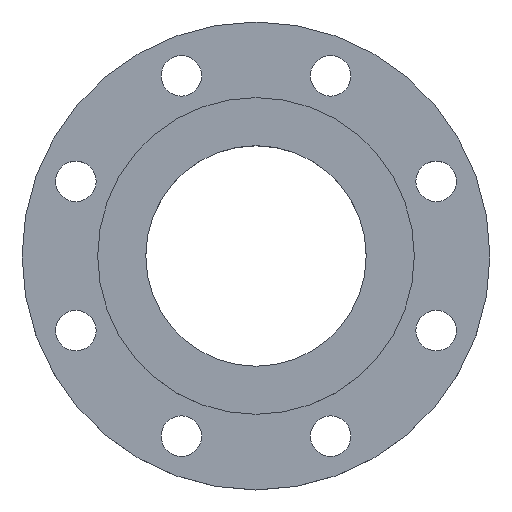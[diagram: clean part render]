
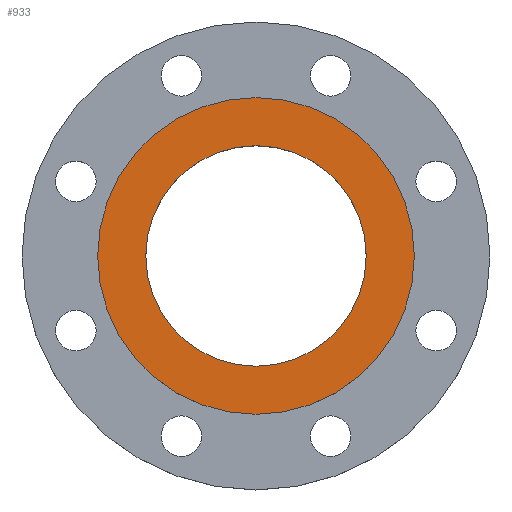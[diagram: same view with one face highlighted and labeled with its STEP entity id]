
A CAD part, top view. The second image highlights one B-rep face of the part: STEP entity #933.
In plain terms, the highlighted planar face has unit normal (0, 0, 1).
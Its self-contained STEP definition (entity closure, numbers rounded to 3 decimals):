
#30 = CIRCLE ( 'NONE', #294, 101.5 ) ;
#47 = CARTESIAN_POINT ( 'NONE',  ( 101.5, 0., 0. ) ) ;
#55 = DIRECTION ( 'NONE',  ( 1., 0., 0. ) ) ;
#57 = DIRECTION ( 'NONE',  ( 0., 0., 1. ) ) ;
#58 = CARTESIAN_POINT ( 'NONE',  ( 0., 0., 0. ) ) ;
#60 = PLANE ( 'NONE',  #158 ) ;
#61 = FACE_OUTER_BOUND ( 'NONE', #453, .T. ) ;
#63 = FACE_BOUND ( 'NONE', #459, .T. ) ;
#112 = DIRECTION ( 'NONE',  ( -1., 0., 0. ) ) ;
#113 = DIRECTION ( 'NONE',  ( 0., 0., -1. ) ) ;
#115 = CARTESIAN_POINT ( 'NONE',  ( 0., 0., 0. ) ) ;
#133 = CIRCLE ( 'NONE', #650, 70.67 ) ;
#138 = CARTESIAN_POINT ( 'NONE',  ( 70.67, 0., 0. ) ) ;
#142 = DIRECTION ( 'NONE',  ( 1., 0., 0. ) ) ;
#146 = DIRECTION ( 'NONE',  ( 0., 0., 1. ) ) ;
#148 = CARTESIAN_POINT ( 'NONE',  ( 0., 0., 0. ) ) ;
#156 = CARTESIAN_POINT ( 'NONE',  ( -70.67, 0., 0. ) ) ;
#158 = AXIS2_PLACEMENT_3D ( 'NONE', #58, #57, #55 ) ;
#203 = DIRECTION ( 'NONE',  ( -1., 0., 0. ) ) ;
#204 = DIRECTION ( 'NONE',  ( 0., 0., -1. ) ) ;
#206 = CARTESIAN_POINT ( 'NONE',  ( 0., 0., 0. ) ) ;
#294 = AXIS2_PLACEMENT_3D ( 'NONE', #115, #113, #112 ) ;
#400 = AXIS2_PLACEMENT_3D ( 'NONE', #206, #204, #203 ) ;
#453 = EDGE_LOOP ( 'NONE', ( #934, #935 ) ) ;
#459 = EDGE_LOOP ( 'NONE', ( #925, #930 ) ) ;
#469 = CARTESIAN_POINT ( 'NONE',  ( -101.5, 0., 0. ) ) ;
#479 = AXIS2_PLACEMENT_3D ( 'NONE', #781, #780, #779 ) ;
#650 = AXIS2_PLACEMENT_3D ( 'NONE', #148, #146, #142 ) ;
#667 = CIRCLE ( 'NONE', #400, 101.5 ) ;
#669 = CIRCLE ( 'NONE', #479, 70.67 ) ;
#674 = EDGE_CURVE ( 'NONE', #823, #819, #669, .T. ) ;
#751 = EDGE_CURVE ( 'NONE', #998, #957, #667, .T. ) ;
#779 = DIRECTION ( 'NONE',  ( 1., 0., 0. ) ) ;
#780 = DIRECTION ( 'NONE',  ( 0., 0., 1. ) ) ;
#781 = CARTESIAN_POINT ( 'NONE',  ( 0., 0., 0. ) ) ;
#819 = VERTEX_POINT ( 'NONE', #156 ) ;
#821 = EDGE_CURVE ( 'NONE', #819, #823, #133, .T. ) ;
#823 = VERTEX_POINT ( 'NONE', #138 ) ;
#847 = EDGE_CURVE ( 'NONE', #957, #998, #30, .T. ) ;
#925 = ORIENTED_EDGE ( 'NONE', *, *, #674, .F. ) ;
#930 = ORIENTED_EDGE ( 'NONE', *, *, #821, .F. ) ;
#933 = ADVANCED_FACE ( 'NONE', ( #63, #61 ), #60, .T. ) ;
#934 = ORIENTED_EDGE ( 'NONE', *, *, #751, .F. ) ;
#935 = ORIENTED_EDGE ( 'NONE', *, *, #847, .F. ) ;
#957 = VERTEX_POINT ( 'NONE', #47 ) ;
#998 = VERTEX_POINT ( 'NONE', #469 ) ;
